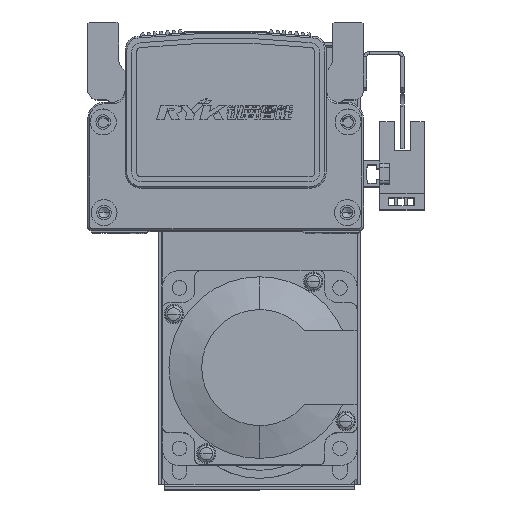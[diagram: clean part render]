
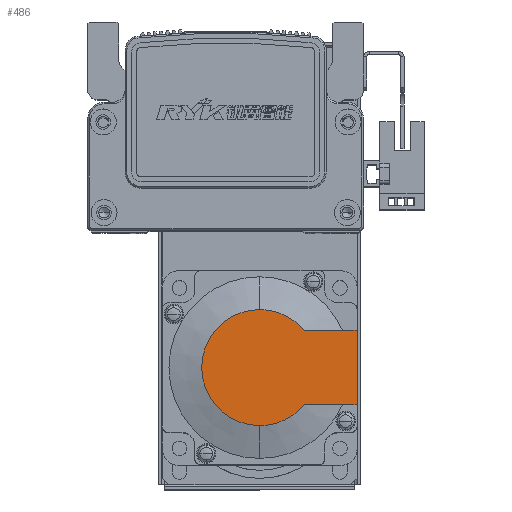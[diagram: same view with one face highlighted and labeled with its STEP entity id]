
A CAD part, top view. The second image highlights one B-rep face of the part: STEP entity #486.
In plain terms, the highlighted planar face has unit normal (0, 0, 1) as drawn and (-1, 0, 0) by its records, which use the part's own axes.
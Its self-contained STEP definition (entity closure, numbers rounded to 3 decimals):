
#486 = ADVANCED_FACE ( 'NONE', ( #9586 ), #59469, .T. ) ;
#2731 = DIRECTION ( 'NONE',  ( 0., 0., -1. ) ) ;
#2742 = CARTESIAN_POINT ( 'NONE',  ( -99., 0., 0. ) ) ;
#2747 = CARTESIAN_POINT ( 'NONE',  ( -99., 0., 0. ) ) ;
#2755 = DIRECTION ( 'NONE',  ( -1., 0., 0. ) ) ;
#2765 = DIRECTION ( 'NONE',  ( 0., 0., -1. ) ) ;
#2785 = DIRECTION ( 'NONE',  ( -1., 0., 0. ) ) ;
#8202 = CIRCLE ( 'NONE', #17078, 17.881 ) ;
#8242 = CIRCLE ( 'NONE', #16960, 17.881 ) ;
#8808 = VECTOR ( 'NONE', #55111, 1000. ) ;
#8825 = LINE ( 'NONE', #55121, #8808 ) ;
#8846 = LINE ( 'NONE', #55092, #8902 ) ;
#8879 = CIRCLE ( 'NONE', #17158, 17.881 ) ;
#8902 = VECTOR ( 'NONE', #55094, 1000. ) ;
#8910 = VECTOR ( 'NONE', #55248, 1000. ) ;
#8945 = LINE ( 'NONE', #55250, #8910 ) ;
#9586 = FACE_OUTER_BOUND ( 'NONE', #60517, .T. ) ;
#16454 = AXIS2_PLACEMENT_3D ( 'NONE', #59524, #59424, #59454 ) ;
#16960 = AXIS2_PLACEMENT_3D ( 'NONE', #2742, #2755, #2765 ) ;
#17078 = AXIS2_PLACEMENT_3D ( 'NONE', #2747, #2785, #2731 ) ;
#17158 = AXIS2_PLACEMENT_3D ( 'NONE', #55169, #55163, #55161 ) ;
#24594 = CARTESIAN_POINT ( 'NONE',  ( -99., 13.735, -11.45 ) ) ;
#24653 = CARTESIAN_POINT ( 'NONE',  ( -99., 30., 11.45 ) ) ;
#24690 = CARTESIAN_POINT ( 'NONE',  ( -99., 30., -11.45 ) ) ;
#26401 = VERTEX_POINT ( 'NONE', #24594 ) ;
#26473 = VERTEX_POINT ( 'NONE', #24653 ) ;
#26482 = VERTEX_POINT ( 'NONE', #24690 ) ;
#30065 = CARTESIAN_POINT ( 'NONE',  ( -99., 0., 17.881 ) ) ;
#30072 = CARTESIAN_POINT ( 'NONE',  ( -99., 0., -17.881 ) ) ;
#30115 = CARTESIAN_POINT ( 'NONE',  ( -99., 13.735, 11.45 ) ) ;
#31045 = EDGE_CURVE ( 'NONE', #43411, #43425, #8242, .T. ) ;
#31048 = EDGE_CURVE ( 'NONE', #43425, #43361, #8202, .T. ) ;
#31410 = EDGE_CURVE ( 'NONE', #26482, #26401, #8825, .T. ) ;
#31431 = EDGE_CURVE ( 'NONE', #26482, #26473, #8846, .T. ) ;
#31477 = EDGE_CURVE ( 'NONE', #26401, #43411, #8879, .T. ) ;
#31519 = EDGE_CURVE ( 'NONE', #26473, #43361, #8945, .T. ) ;
#40164 = ORIENTED_EDGE ( 'NONE', *, *, #31045, .T. ) ;
#40175 = ORIENTED_EDGE ( 'NONE', *, *, #31519, .F. ) ;
#40189 = ORIENTED_EDGE ( 'NONE', *, *, #31410, .T. ) ;
#40238 = ORIENTED_EDGE ( 'NONE', *, *, #31048, .T. ) ;
#40250 = ORIENTED_EDGE ( 'NONE', *, *, #31431, .F. ) ;
#40254 = ORIENTED_EDGE ( 'NONE', *, *, #31477, .T. ) ;
#43361 = VERTEX_POINT ( 'NONE', #30115 ) ;
#43411 = VERTEX_POINT ( 'NONE', #30072 ) ;
#43425 = VERTEX_POINT ( 'NONE', #30065 ) ;
#55092 = CARTESIAN_POINT ( 'NONE',  ( -99., 30., 25. ) ) ;
#55094 = DIRECTION ( 'NONE',  ( 0., 0., 1. ) ) ;
#55111 = DIRECTION ( 'NONE',  ( 0., -1., 0. ) ) ;
#55121 = CARTESIAN_POINT ( 'NONE',  ( -99., -8.941, -11.45 ) ) ;
#55161 = DIRECTION ( 'NONE',  ( 0., 0., -1. ) ) ;
#55163 = DIRECTION ( 'NONE',  ( -1., 0., 0. ) ) ;
#55169 = CARTESIAN_POINT ( 'NONE',  ( -99., 0., 0. ) ) ;
#55248 = DIRECTION ( 'NONE',  ( 0., -1., 0. ) ) ;
#55250 = CARTESIAN_POINT ( 'NONE',  ( -99., 0., 11.45 ) ) ;
#59424 = DIRECTION ( 'NONE',  ( -1., 0., 0. ) ) ;
#59454 = DIRECTION ( 'NONE',  ( 0., 0., 1. ) ) ;
#59469 = PLANE ( 'NONE',  #16454 ) ;
#59524 = CARTESIAN_POINT ( 'NONE',  ( -99., -8.941, 0. ) ) ;
#60517 = EDGE_LOOP ( 'NONE', ( #40189, #40254, #40164, #40238, #40175, #40250 ) ) ;
